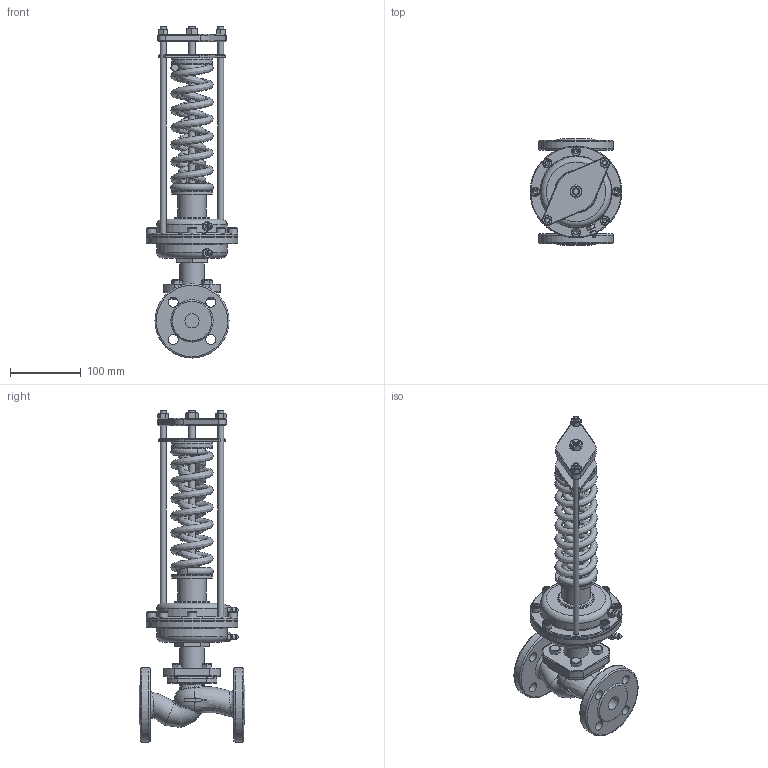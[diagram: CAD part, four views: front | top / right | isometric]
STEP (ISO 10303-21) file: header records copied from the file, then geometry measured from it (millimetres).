
FILE_DESCRIPTION(('STEP AP214'), '1');
FILE_NAME('Ðåãóëÿòîðû ïåðåïàäà äàâëåíèÿ ÂÐÄÄ', '', ('UNSPECIFIED'), ('UNSPECIFIED'), 'C3D Converter', 'C3D Toolkit', '');
FILE_SCHEMA(('AUTOMOTIVE_DESIGN { 1 0 10303 214 3 1 1}'));
Length unit declared in the file: millimetre
Products named in the file (8): -02
Assembly tree (17 placements, depth 3):
  -02
    -02
      (unnamed)  x4
    -02
      (unnamed)  x6
      (unnamed)  x2
      (unnamed)
      (unnamed)  x2
Bounding box: 130 x 150 x 470 mm (x, y, z)
Volume: 1460762.4 mm3; surface area: 307780.2 mm2
Topology: 29 solids, 29 shells, 608 faces, 1305 edges, 774 vertices
Faces by surface type: plane 257, cylinder 144, cone 88, torus 56, bspline 45, sphere 16, revolution 2
Full cylindrical faces by diameter (mm): 1.7 x2, 2.7 x4, 6 x16, 6.5 x4, 6.917 x2, 8 x12, 8.5 x4, 8.917 x1, 10 x14, 13 x6, 14 x8, 20 x2, 35 x1, 40 x3, 50 x1, 58 x2, 100 x2, 105 x2, 130 x2
Entity records: 32396 total; most frequent: CARTESIAN_POINT 22028, DIRECTION 1652, ORIENTED_EDGE 1444, EDGE_CURVE 722, AXIS2_PLACEMENT_3D 717, EDGE_LOOP 608, VERTEX_POINT 500, ADVANCED_FACE 402
